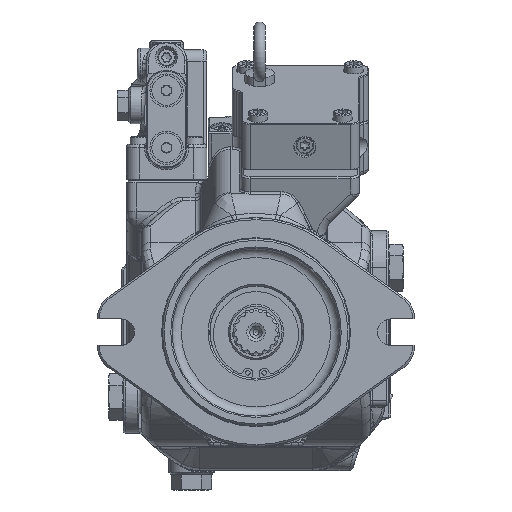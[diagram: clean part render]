
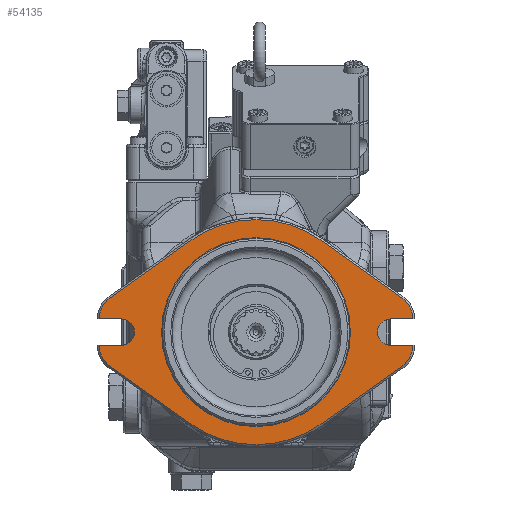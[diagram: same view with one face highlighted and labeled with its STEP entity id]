
A CAD part, front view. The second image highlights one B-rep face of the part: STEP entity #54135.
In plain terms, the highlighted planar face has unit normal (0, -1, 0).
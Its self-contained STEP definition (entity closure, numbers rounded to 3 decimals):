
#935=FACE_BOUND('',#10043,.T.);
#6642=FACE_OUTER_BOUND('',#10042,.T.);
#10042=EDGE_LOOP('',(#47064,#47065,#47066,#47067,#47068,#47069,#47070,#47071,
#47072,#47073,#47074,#47075,#47076,#47077,#47078,#47079,#47080,#47081,#47082,
#47083));
#10043=EDGE_LOOP('',(#47084));
#13952=LINE('',#105748,#17794);
#13964=LINE('',#105778,#17806);
#13973=LINE('',#105839,#17815);
#13988=LINE('',#105888,#17830);
#13995=LINE('',#105903,#17837);
#13996=LINE('',#105906,#17838);
#13997=LINE('',#105910,#17839);
#13998=LINE('',#105914,#17840);
#13999=LINE('',#105917,#17841);
#14000=LINE('',#105919,#17842);
#14001=LINE('',#105923,#17843);
#14002=LINE('',#105927,#17844);
#17794=VECTOR('',#71542,10.);
#17806=VECTOR('',#71568,10.);
#17815=VECTOR('',#71597,10.);
#17830=VECTOR('',#71642,10.);
#17837=VECTOR('',#71655,10.);
#17838=VECTOR('',#71658,10.);
#17839=VECTOR('',#71661,10.);
#17840=VECTOR('',#71664,10.);
#17841=VECTOR('',#71667,10.);
#17842=VECTOR('',#71668,10.);
#17843=VECTOR('',#71671,10.);
#17844=VECTOR('',#71674,10.);
#20271=CIRCLE('',#58951,7.15);
#20281=CIRCLE('',#58979,7.15);
#20282=CIRCLE('',#58982,14.);
#20283=CIRCLE('',#58983,61.);
#20284=CIRCLE('',#58984,14.);
#20285=CIRCLE('',#58985,14.);
#20286=CIRCLE('',#58986,61.);
#20287=CIRCLE('',#58987,14.);
#20288=CIRCLE('',#58988,51.2);
#24956=VERTEX_POINT('',#105745);
#24957=VERTEX_POINT('',#105747);
#24965=VERTEX_POINT('',#105768);
#24968=VERTEX_POINT('',#105776);
#24978=VERTEX_POINT('',#105838);
#24996=VERTEX_POINT('',#105885);
#24997=VERTEX_POINT('',#105887);
#24999=VERTEX_POINT('',#105893);
#25002=VERTEX_POINT('',#105901);
#25003=VERTEX_POINT('',#105905);
#25004=VERTEX_POINT('',#105907);
#25005=VERTEX_POINT('',#105909);
#25006=VERTEX_POINT('',#105911);
#25007=VERTEX_POINT('',#105913);
#25008=VERTEX_POINT('',#105915);
#25009=VERTEX_POINT('',#105918);
#25010=VERTEX_POINT('',#105920);
#25011=VERTEX_POINT('',#105922);
#25012=VERTEX_POINT('',#105924);
#25013=VERTEX_POINT('',#105926);
#25014=VERTEX_POINT('',#105929);
#32412=EDGE_CURVE('',#24957,#24956,#13952,.T.);
#32424=EDGE_CURVE('',#24956,#24965,#20271,.T.);
#32428=EDGE_CURVE('',#24965,#24968,#13964,.T.);
#32443=EDGE_CURVE('',#24957,#24978,#13973,.T.);
#32467=EDGE_CURVE('',#24997,#24996,#13988,.T.);
#32471=EDGE_CURVE('',#24996,#24999,#20281,.T.);
#32475=EDGE_CURVE('',#24999,#25002,#13995,.T.);
#32476=EDGE_CURVE('',#25003,#24968,#13996,.T.);
#32477=EDGE_CURVE('',#25004,#25003,#20282,.T.);
#32478=EDGE_CURVE('',#25005,#25004,#13997,.T.);
#32479=EDGE_CURVE('',#25006,#25005,#20283,.T.);
#32480=EDGE_CURVE('',#25007,#25006,#13998,.T.);
#32481=EDGE_CURVE('',#25008,#25007,#20284,.T.);
#32482=EDGE_CURVE('',#24997,#25008,#13999,.T.);
#32483=EDGE_CURVE('',#25009,#25002,#14000,.T.);
#32484=EDGE_CURVE('',#25010,#25009,#20285,.T.);
#32485=EDGE_CURVE('',#25011,#25010,#14001,.T.);
#32486=EDGE_CURVE('',#25012,#25011,#20286,.T.);
#32487=EDGE_CURVE('',#25013,#25012,#14002,.T.);
#32488=EDGE_CURVE('',#24978,#25013,#20287,.T.);
#32489=EDGE_CURVE('',#25014,#25014,#20288,.T.);
#47064=ORIENTED_EDGE('',*,*,#32428,.T.);
#47065=ORIENTED_EDGE('',*,*,#32476,.F.);
#47066=ORIENTED_EDGE('',*,*,#32477,.F.);
#47067=ORIENTED_EDGE('',*,*,#32478,.F.);
#47068=ORIENTED_EDGE('',*,*,#32479,.F.);
#47069=ORIENTED_EDGE('',*,*,#32480,.F.);
#47070=ORIENTED_EDGE('',*,*,#32481,.F.);
#47071=ORIENTED_EDGE('',*,*,#32482,.F.);
#47072=ORIENTED_EDGE('',*,*,#32467,.T.);
#47073=ORIENTED_EDGE('',*,*,#32471,.T.);
#47074=ORIENTED_EDGE('',*,*,#32475,.T.);
#47075=ORIENTED_EDGE('',*,*,#32483,.F.);
#47076=ORIENTED_EDGE('',*,*,#32484,.F.);
#47077=ORIENTED_EDGE('',*,*,#32485,.F.);
#47078=ORIENTED_EDGE('',*,*,#32486,.F.);
#47079=ORIENTED_EDGE('',*,*,#32487,.F.);
#47080=ORIENTED_EDGE('',*,*,#32488,.F.);
#47081=ORIENTED_EDGE('',*,*,#32443,.F.);
#47082=ORIENTED_EDGE('',*,*,#32412,.T.);
#47083=ORIENTED_EDGE('',*,*,#32424,.T.);
#47084=ORIENTED_EDGE('',*,*,#32489,.F.);
#51134=PLANE('',#58981);
#54135=ADVANCED_FACE('',(#6642,#935),#51134,.F.);
#58951=AXIS2_PLACEMENT_3D('',#105770,#71561,#71562);
#58979=AXIS2_PLACEMENT_3D('',#105895,#71648,#71649);
#58981=AXIS2_PLACEMENT_3D('',#105904,#71656,#71657);
#58982=AXIS2_PLACEMENT_3D('',#105908,#71659,#71660);
#58983=AXIS2_PLACEMENT_3D('',#105912,#71662,#71663);
#58984=AXIS2_PLACEMENT_3D('',#105916,#71665,#71666);
#58985=AXIS2_PLACEMENT_3D('',#105921,#71669,#71670);
#58986=AXIS2_PLACEMENT_3D('',#105925,#71672,#71673);
#58987=AXIS2_PLACEMENT_3D('',#105928,#71675,#71676);
#58988=AXIS2_PLACEMENT_3D('',#105930,#71677,#71678);
#71542=DIRECTION('',(-1.,0.,0.));
#71561=DIRECTION('center_axis',(0.,1.,0.));
#71562=DIRECTION('ref_axis',(0.,0.,
-1.));
#71568=DIRECTION('',(1.,0.,0.));
#71597=DIRECTION('',(0.,0.,-1.));
#71642=DIRECTION('',(1.,0.,0.));
#71648=DIRECTION('center_axis',(0.,1.,0.));
#71649=DIRECTION('ref_axis',(0.,0.,
-1.));
#71655=DIRECTION('',(-1.,0.,0.));
#71656=DIRECTION('center_axis',(0.,1.,0.));
#71657=DIRECTION('ref_axis',(0.,0.,
1.));
#71658=DIRECTION('',(0.,0.,-1.));
#71659=DIRECTION('center_axis',(0.,1.,0.));
#71660=DIRECTION('ref_axis',(0.888,0.,0.459));
#71661=DIRECTION('',(0.816,0.,-0.579));
#71662=DIRECTION('center_axis',(0.,1.,0.));
#71663=DIRECTION('ref_axis',(0.,0.,
1.));
#71664=DIRECTION('',(0.816,0.,0.579));
#71665=DIRECTION('center_axis',(0.,1.,0.));
#71666=DIRECTION('ref_axis',(-0.888,0.,0.459));
#71667=DIRECTION('',(0.,0.,1.));
#71668=DIRECTION('',(0.,0.,1.));
#71669=DIRECTION('center_axis',(0.,1.,0.));
#71670=DIRECTION('ref_axis',(-0.888,0.,-0.459));
#71671=DIRECTION('',(-0.816,0.,0.579));
#71672=DIRECTION('center_axis',(0.,1.,0.));
#71673=DIRECTION('ref_axis',(0.,0.,
-1.));
#71674=DIRECTION('',(-0.816,0.,-0.579));
#71675=DIRECTION('center_axis',(0.,1.,0.));
#71676=DIRECTION('ref_axis',(0.888,0.,-0.459));
#71677=DIRECTION('center_axis',(0.,-1.,0.));
#71678=DIRECTION('ref_axis',(0.,0.,
-1.));
#105745=CARTESIAN_POINT('',(31.539,-105.639,-9.089));
#105747=CARTESIAN_POINT('',(43.539,-105.639,-9.089));
#105748=CARTESIAN_POINT('',(13.172,-105.639,-9.089));
#105768=CARTESIAN_POINT('',(31.539,-105.639,5.211));
#105770=CARTESIAN_POINT('Origin',(31.539,-105.639,-1.939));
#105776=CARTESIAN_POINT('',(43.539,-105.639,5.211));
#105778=CARTESIAN_POINT('',(-4.961,-105.639,5.211));
#105838=CARTESIAN_POINT('',(43.539,-105.639,-9.19));
#105839=CARTESIAN_POINT('',(43.539,-105.639,54.101));
#105885=CARTESIAN_POINT('',(-114.461,-105.639,5.211));
#105887=CARTESIAN_POINT('',(-126.461,-105.639,5.211));
#105888=CARTESIAN_POINT('',(-77.961,-105.639,5.211));
#105893=CARTESIAN_POINT('',(-114.461,-105.639,-9.089));
#105895=CARTESIAN_POINT('Origin',(-114.461,-105.639,-1.939));
#105901=CARTESIAN_POINT('',(-126.461,-105.639,-9.089));
#105903=CARTESIAN_POINT('',(-96.094,-105.639,-9.089));
#105904=CARTESIAN_POINT('Origin',(-41.461,-105.639,88.642));
#105905=CARTESIAN_POINT('',(43.539,-105.639,5.312));
#105906=CARTESIAN_POINT('',(43.539,-105.639,54.101));
#105907=CARTESIAN_POINT('',(37.64,-105.639,16.729));
#105908=CARTESIAN_POINT('Origin',(29.539,-105.639,5.312));
#105909=CARTESIAN_POINT('',(-6.161,-105.639,47.809));
#105910=CARTESIAN_POINT('',(-21.849,-105.639,58.941));
#105911=CARTESIAN_POINT('',(-76.761,-105.639,47.809));
#105912=CARTESIAN_POINT('Origin',(-41.461,-105.639,-1.939));
#105913=CARTESIAN_POINT('',(-120.563,-105.639,16.729));
#105914=CARTESIAN_POINT('',(-48.543,-105.639,67.832));
#105915=CARTESIAN_POINT('',(-126.461,-105.639,5.312));
#105916=CARTESIAN_POINT('Origin',(-112.461,-105.639,5.312));
#105917=CARTESIAN_POINT('',(-126.461,-105.639,61.601));
#105918=CARTESIAN_POINT('',(-126.461,-105.639,-9.19));
#105919=CARTESIAN_POINT('',(-126.461,-105.639,61.601));
#105920=CARTESIAN_POINT('',(-120.563,-105.639,-20.608));
#105921=CARTESIAN_POINT('Origin',(-112.461,-105.639,-9.19));
#105922=CARTESIAN_POINT('',(-76.761,-105.639,-51.688));
#105923=CARTESIAN_POINT('',(-117.509,-105.639,-22.775));
#105924=CARTESIAN_POINT('',(-6.161,-105.639,-51.688));
#105925=CARTESIAN_POINT('Origin',(-41.461,-105.639,-1.939));
#105926=CARTESIAN_POINT('',(37.64,-105.639,-20.608));
#105927=CARTESIAN_POINT('',(22.057,-105.639,-31.666));
#105928=CARTESIAN_POINT('Origin',(29.539,-105.639,-9.19));
#105929=CARTESIAN_POINT('',(-41.461,-105.639,49.261));
#105930=CARTESIAN_POINT('Origin',(-41.461,-105.639,-1.939));
